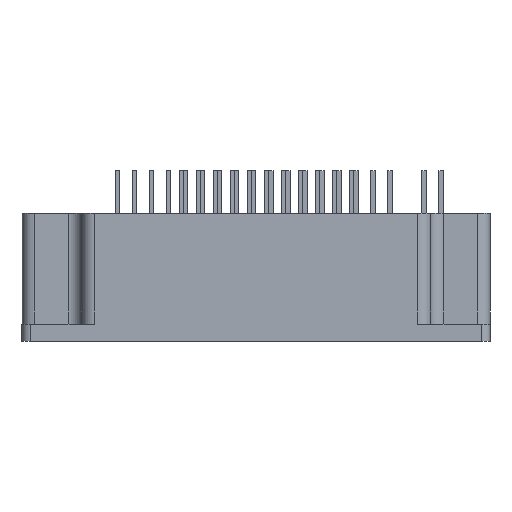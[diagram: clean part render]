
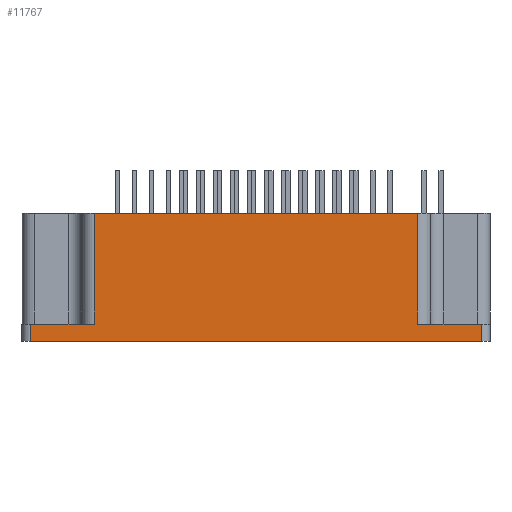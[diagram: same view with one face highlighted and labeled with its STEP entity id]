
A CAD part, left-side view. The second image highlights one B-rep face of the part: STEP entity #11767.
In plain terms, the highlighted planar face has unit normal (-1, 0, 0).
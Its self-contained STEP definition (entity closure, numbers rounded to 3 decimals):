
#110 = CARTESIAN_POINT ( 'NONE',  ( -90.997, -10.171, -13.75 ) ) ;
#514 = EDGE_CURVE ( 'NONE', #3012, #10973, #1965, .T. ) ;
#820 = VECTOR ( 'NONE', #6985, 1000. ) ;
#886 = ORIENTED_EDGE ( 'NONE', *, *, #3831, .T. ) ;
#1043 = VECTOR ( 'NONE', #12276, 1000. ) ;
#1158 = VERTEX_POINT ( 'NONE', #110 ) ;
#1262 = ORIENTED_EDGE ( 'NONE', *, *, #9887, .T. ) ;
#1264 = CARTESIAN_POINT ( 'NONE',  ( -90.997, 44.829, -15.75 ) ) ;
#1412 = DIRECTION ( 'NONE',  ( 0., 1., 0. ) ) ;
#1573 = EDGE_CURVE ( 'NONE', #6962, #3012, #7947, .T. ) ;
#1750 = DIRECTION ( 'NONE',  ( 0., 0., 1. ) ) ;
#1782 = DIRECTION ( 'NONE',  ( 0., 0., -1. ) ) ;
#1819 = LINE ( 'NONE', #6840, #4625 ) ;
#1870 = CARTESIAN_POINT ( 'NONE',  ( -90.997, -2.671, -15.75 ) ) ;
#1885 = ORIENTED_EDGE ( 'NONE', *, *, #1573, .T. ) ;
#1965 = LINE ( 'NONE', #11610, #8281 ) ;
#2297 = LINE ( 'NONE', #6255, #12133 ) ;
#2443 = CARTESIAN_POINT ( 'NONE',  ( -90.997, -2.671, -0.75 ) ) ;
#2957 = VECTOR ( 'NONE', #1750, 1000. ) ;
#3012 = VERTEX_POINT ( 'NONE', #7996 ) ;
#3049 = CARTESIAN_POINT ( 'NONE',  ( -90.997, 43.829, -13.75 ) ) ;
#3126 = VERTEX_POINT ( 'NONE', #2443 ) ;
#3831 = EDGE_CURVE ( 'NONE', #7824, #3126, #10684, .T. ) ;
#3947 = AXIS2_PLACEMENT_3D ( 'NONE', #1264, #8277, #9105 ) ;
#4103 = DIRECTION ( 'NONE',  ( 0., 1., 0. ) ) ;
#4507 = VECTOR ( 'NONE', #4103, 1000. ) ;
#4625 = VECTOR ( 'NONE', #5754, 1000. ) ;
#5333 = CARTESIAN_POINT ( 'NONE',  ( -90.997, 44.829, -13.75 ) ) ;
#5460 = ORIENTED_EDGE ( 'NONE', *, *, #11372, .T. ) ;
#5754 = DIRECTION ( 'NONE',  ( 0., 0., -1. ) ) ;
#5910 = VERTEX_POINT ( 'NONE', #8442 ) ;
#5963 = EDGE_CURVE ( 'NONE', #5910, #6962, #1819, .T. ) ;
#6065 = LINE ( 'NONE', #6961, #10295 ) ;
#6255 = CARTESIAN_POINT ( 'NONE',  ( -90.997, 44.829, -0.75 ) ) ;
#6840 = CARTESIAN_POINT ( 'NONE',  ( -90.997, 35.329, -15.75 ) ) ;
#6841 = DIRECTION ( 'NONE',  ( 0., -1., 0. ) ) ;
#6948 = PLANE ( 'NONE',  #3947 ) ;
#6961 = CARTESIAN_POINT ( 'NONE',  ( -90.997, -11.171, -15.75 ) ) ;
#6962 = VERTEX_POINT ( 'NONE', #7951 ) ;
#6985 = DIRECTION ( 'NONE',  ( 0., 1., 0. ) ) ;
#7161 = ORIENTED_EDGE ( 'NONE', *, *, #11296, .T. ) ;
#7824 = VERTEX_POINT ( 'NONE', #9362 ) ;
#7947 = LINE ( 'NONE', #3049, #820 ) ;
#7951 = CARTESIAN_POINT ( 'NONE',  ( -90.997, 35.329, -13.75 ) ) ;
#7996 = CARTESIAN_POINT ( 'NONE',  ( -90.997, 42.829, -13.75 ) ) ;
#8277 = DIRECTION ( 'NONE',  ( -1., 0., 0. ) ) ;
#8281 = VECTOR ( 'NONE', #1782, 1000. ) ;
#8373 = LINE ( 'NONE', #12083, #1043 ) ;
#8442 = CARTESIAN_POINT ( 'NONE',  ( -90.997, 35.329, -0.75 ) ) ;
#8798 = EDGE_CURVE ( 'NONE', #1158, #7824, #10210, .T. ) ;
#9105 = DIRECTION ( 'NONE',  ( 0., 0., 1. ) ) ;
#9208 = ORIENTED_EDGE ( 'NONE', *, *, #8798, .T. ) ;
#9362 = CARTESIAN_POINT ( 'NONE',  ( -90.997, -2.671, -13.75 ) ) ;
#9701 = FACE_OUTER_BOUND ( 'NONE', #12527, .T. ) ;
#9887 = EDGE_CURVE ( 'NONE', #9984, #1158, #8373, .T. ) ;
#9984 = VERTEX_POINT ( 'NONE', #12343 ) ;
#10210 = LINE ( 'NONE', #5333, #4507 ) ;
#10295 = VECTOR ( 'NONE', #6841, 1000. ) ;
#10684 = LINE ( 'NONE', #1870, #2957 ) ;
#10973 = VERTEX_POINT ( 'NONE', #12085 ) ;
#11030 = ORIENTED_EDGE ( 'NONE', *, *, #514, .T. ) ;
#11296 = EDGE_CURVE ( 'NONE', #10973, #9984, #6065, .T. ) ;
#11372 = EDGE_CURVE ( 'NONE', #3126, #5910, #2297, .T. ) ;
#11529 = ORIENTED_EDGE ( 'NONE', *, *, #5963, .T. ) ;
#11610 = CARTESIAN_POINT ( 'NONE',  ( -90.997, 42.829, -15.75 ) ) ;
#11767 = ADVANCED_FACE ( 'NONE', ( #9701 ), #6948, .T. ) ;
#12083 = CARTESIAN_POINT ( 'NONE',  ( -90.997, -10.171, -15.75 ) ) ;
#12085 = CARTESIAN_POINT ( 'NONE',  ( -90.997, 42.829, -15.75 ) ) ;
#12133 = VECTOR ( 'NONE', #1412, 1000. ) ;
#12276 = DIRECTION ( 'NONE',  ( 0., 0., 1. ) ) ;
#12343 = CARTESIAN_POINT ( 'NONE',  ( -90.997, -10.171, -15.75 ) ) ;
#12527 = EDGE_LOOP ( 'NONE', ( #5460, #11529, #1885, #11030, #7161, #1262, #9208, #886 ) ) ;
